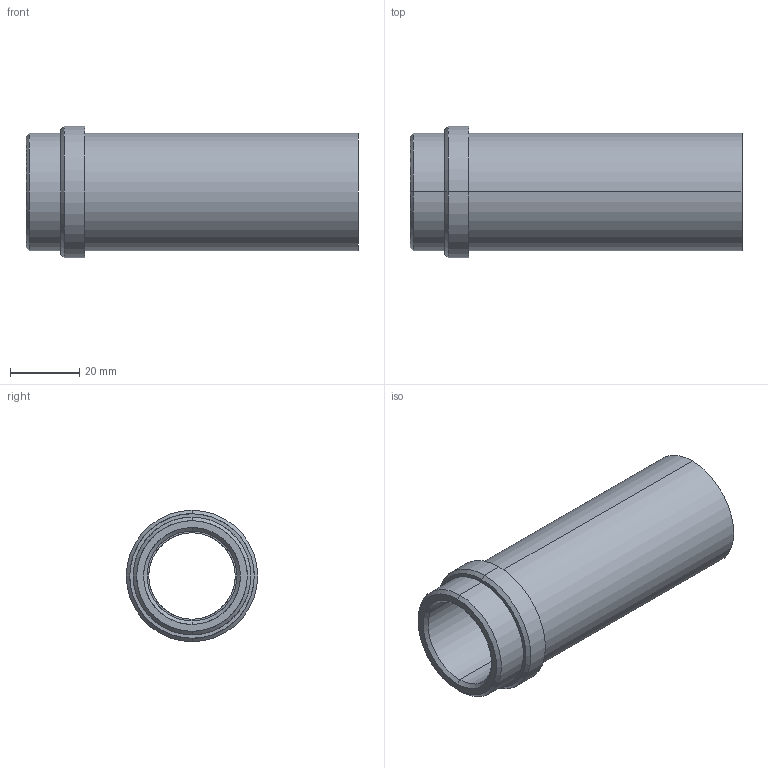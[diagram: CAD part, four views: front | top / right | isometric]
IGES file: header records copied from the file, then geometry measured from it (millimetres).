
Start section: START RECORD GO HERE.
Global section: file name: 358-25x96.igs; native system: DASSAULT SYSTEMES CATIA V5 R20 - www.3ds.com; preprocessor: CATIA Version 5 Release 20 ; author: Utente; organization: NB04-ASUS; date: 20210409.151847; units: millimetre
Bounding box: 96 x 38 x 38 mm (x, y, z)
Surface area: 19065.6 mm2 (no closed solid volume)
Topology: 0 solids, 0 shells, 23 faces, 148 edges, 148 vertices
Faces by surface type: revolution 18, plane 5
